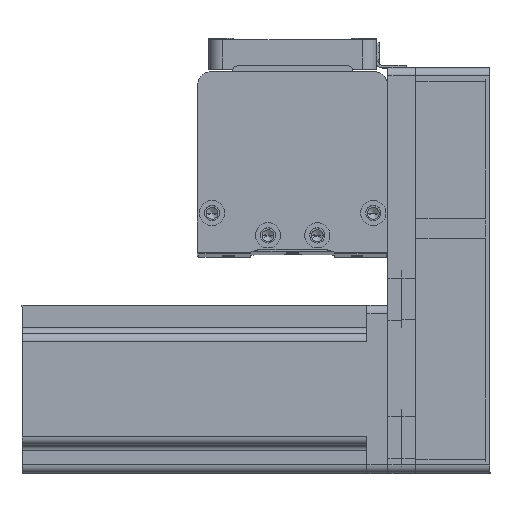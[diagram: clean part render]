
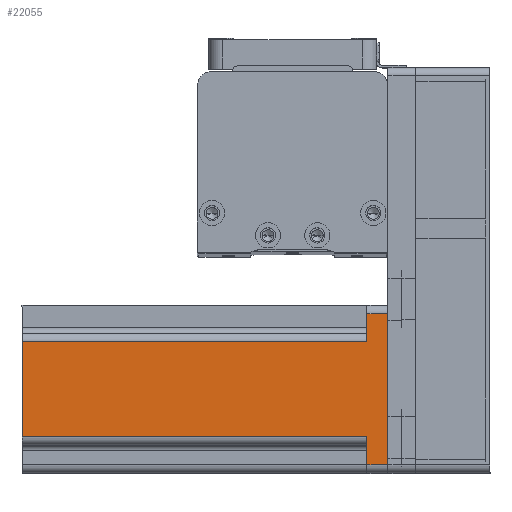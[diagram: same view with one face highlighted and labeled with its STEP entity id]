
A CAD part, top view. The second image highlights one B-rep face of the part: STEP entity #22055.
In plain terms, the highlighted planar face has unit normal (0, 0, 1) as drawn and (0, 1, 0) by its records, which use the part's own axes.
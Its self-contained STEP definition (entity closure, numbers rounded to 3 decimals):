
#338 = DIRECTION ( 'NONE',  ( 1., 0., 0. ) ) ;
#966 = DIRECTION ( 'NONE',  ( 0., 0., -1. ) ) ;
#3330 = ORIENTED_EDGE ( 'NONE', *, *, #35838, .F. ) ;
#3341 = VECTOR ( 'NONE', #966, 1000. ) ;
#3564 = ORIENTED_EDGE ( 'NONE', *, *, #44472, .T. ) ;
#4262 = CARTESIAN_POINT ( 'NONE',  ( -27., 30., 0. ) ) ;
#4558 = EDGE_CURVE ( 'NONE', #28121, #25755, #30090, .T. ) ;
#6323 = VECTOR ( 'NONE', #25800, 1000. ) ;
#6451 = LINE ( 'NONE', #20691, #7586 ) ;
#7586 = VECTOR ( 'NONE', #42469, 1000. ) ;
#9457 = VECTOR ( 'NONE', #18449, 1000. ) ;
#9947 = ORIENTED_EDGE ( 'NONE', *, *, #4558, .F. ) ;
#10578 = LINE ( 'NONE', #40227, #9457 ) ;
#13419 = VERTEX_POINT ( 'NONE', #27540 ) ;
#13772 = CARTESIAN_POINT ( 'NONE',  ( 30., 30., 130.7 ) ) ;
#13779 = CARTESIAN_POINT ( 'NONE',  ( -17., 30., 130.7 ) ) ;
#13854 = EDGE_CURVE ( 'NONE', #38121, #17006, #10578, .T. ) ;
#14176 = ORIENTED_EDGE ( 'NONE', *, *, #39416, .T. ) ;
#14830 = CARTESIAN_POINT ( 'NONE',  ( -17., 30., 130.7 ) ) ;
#15240 = EDGE_CURVE ( 'NONE', #13419, #26806, #41737, .T. ) ;
#15283 = AXIS2_PLACEMENT_3D ( 'NONE', #43817, #22094, #338 ) ;
#16024 = VECTOR ( 'NONE', #38812, 1000. ) ;
#17006 = VERTEX_POINT ( 'NONE', #4262 ) ;
#17209 = VERTEX_POINT ( 'NONE', #41695 ) ;
#18449 = DIRECTION ( 'NONE',  ( -1., 0., 0. ) ) ;
#19968 = ORIENTED_EDGE ( 'NONE', *, *, #13854, .T. ) ;
#20691 = CARTESIAN_POINT ( 'NONE',  ( 17., 30., 130.7 ) ) ;
#21740 = FACE_OUTER_BOUND ( 'NONE', #43804, .T. ) ;
#22055 = ADVANCED_FACE ( 'NONE', ( #21740 ), #29219, .F. ) ;
#22094 = DIRECTION ( 'NONE',  ( 0., -1., 0. ) ) ;
#24243 = EDGE_CURVE ( 'NONE', #17209, #25755, #6451, .T. ) ;
#24771 = DIRECTION ( 'NONE',  ( -1., 0., 0. ) ) ;
#24812 = DIRECTION ( 'NONE',  ( -1., 0., 0. ) ) ;
#25682 = LINE ( 'NONE', #14830, #6323 ) ;
#25755 = VERTEX_POINT ( 'NONE', #42080 ) ;
#25800 = DIRECTION ( 'NONE',  ( 0., 0., 1. ) ) ;
#26402 = CARTESIAN_POINT ( 'NONE',  ( 27., 30., 130.7 ) ) ;
#26806 = VERTEX_POINT ( 'NONE', #44526 ) ;
#27540 = CARTESIAN_POINT ( 'NONE',  ( -27., 30., 7.5 ) ) ;
#28121 = VERTEX_POINT ( 'NONE', #34468 ) ;
#28945 = VECTOR ( 'NONE', #24812, 1000. ) ;
#29219 = PLANE ( 'NONE',  #15283 ) ;
#29451 = ORIENTED_EDGE ( 'NONE', *, *, #39632, .T. ) ;
#30090 = LINE ( 'NONE', #39198, #28945 ) ;
#30927 = VECTOR ( 'NONE', #40427, 1000. ) ;
#34468 = CARTESIAN_POINT ( 'NONE',  ( 27., 30., 7.5 ) ) ;
#35838 = EDGE_CURVE ( 'NONE', #17209, #45192, #37671, .T. ) ;
#36569 = VECTOR ( 'NONE', #24771, 1000. ) ;
#36777 = CARTESIAN_POINT ( 'NONE',  ( -20., 30., 7.5 ) ) ;
#37671 = LINE ( 'NONE', #13772, #36569 ) ;
#38121 = VERTEX_POINT ( 'NONE', #38603 ) ;
#38603 = CARTESIAN_POINT ( 'NONE',  ( 27., 30., 0. ) ) ;
#38812 = DIRECTION ( 'NONE',  ( 0., 0., 1. ) ) ;
#39198 = CARTESIAN_POINT ( 'NONE',  ( 20., 30., 7.5 ) ) ;
#39416 = EDGE_CURVE ( 'NONE', #17006, #13419, #43860, .T. ) ;
#39632 = EDGE_CURVE ( 'NONE', #26806, #45192, #25682, .T. ) ;
#40227 = CARTESIAN_POINT ( 'NONE',  ( 30., 30., 0. ) ) ;
#40427 = DIRECTION ( 'NONE',  ( 1., 0., 0. ) ) ;
#41695 = CARTESIAN_POINT ( 'NONE',  ( 17., 30., 130.7 ) ) ;
#41737 = LINE ( 'NONE', #36777, #30927 ) ;
#41984 = LINE ( 'NONE', #26402, #3341 ) ;
#42080 = CARTESIAN_POINT ( 'NONE',  ( 17., 30., 7.5 ) ) ;
#42469 = DIRECTION ( 'NONE',  ( 0., 0., -1. ) ) ;
#43401 = ORIENTED_EDGE ( 'NONE', *, *, #24243, .T. ) ;
#43804 = EDGE_LOOP ( 'NONE', ( #44951, #29451, #3330, #43401, #9947, #3564, #19968, #14176 ) ) ;
#43817 = CARTESIAN_POINT ( 'NONE',  ( 30., 30., 130.7 ) ) ;
#43860 = LINE ( 'NONE', #46080, #16024 ) ;
#44472 = EDGE_CURVE ( 'NONE', #28121, #38121, #41984, .T. ) ;
#44526 = CARTESIAN_POINT ( 'NONE',  ( -17., 30., 7.5 ) ) ;
#44951 = ORIENTED_EDGE ( 'NONE', *, *, #15240, .T. ) ;
#45192 = VERTEX_POINT ( 'NONE', #13779 ) ;
#46080 = CARTESIAN_POINT ( 'NONE',  ( -27., 30., 130.7 ) ) ;
